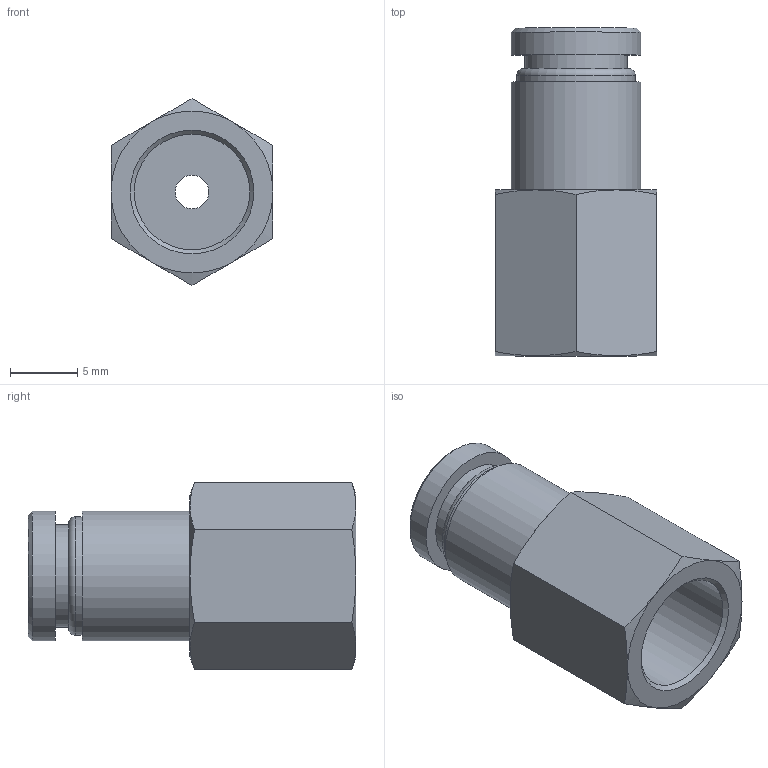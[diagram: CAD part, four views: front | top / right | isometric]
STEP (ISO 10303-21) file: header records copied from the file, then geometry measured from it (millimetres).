
FILE_DESCRIPTION(/* description */ (''),/* implementation_level */ '2;1');
FILE_NAME(/* name */ 'LXH14 0004 B1.stp',/* time_stamp */ '2026-04-27T19:31:53+02:00',/* author */ ('freju'),/* organization */ (''),/* preprocessor_version */ 'ST-DEVELOPER v20.1',/* originating_system */ 'Autodesk Inventor 2026',/* authorisation */ '');
FILE_SCHEMA (('AUTOMOTIVE_DESIGN { 1 0 10303 214 3 1 1 }'));
Length unit declared in the file: millimetre
Products named in the file (1): LXH14 0004 B1
Bounding box: 12 x 24.3 x 13.86 mm (x, y, z)
Volume: 1656.6 mm3; surface area: 1562.3 mm2
Topology: 1 solids, 1 shells, 36 faces, 72 edges, 44 vertices
Faces by surface type: plane 14, cone 14, cylinder 7, torus 1
Full cylindrical faces by diameter (mm): 2.5 x1, 4 x1, 7.6 x1, 8.566 x1, 8.8 x1, 9.6 x2
Entity records: 956 total; most frequent: CARTESIAN_POINT 201, DIRECTION 155, ORIENTED_EDGE 144, EDGE_CURVE 72, AXIS2_PLACEMENT_3D 70, EDGE_LOOP 44, VERTEX_POINT 44, FACE_OUTER_BOUND 36
